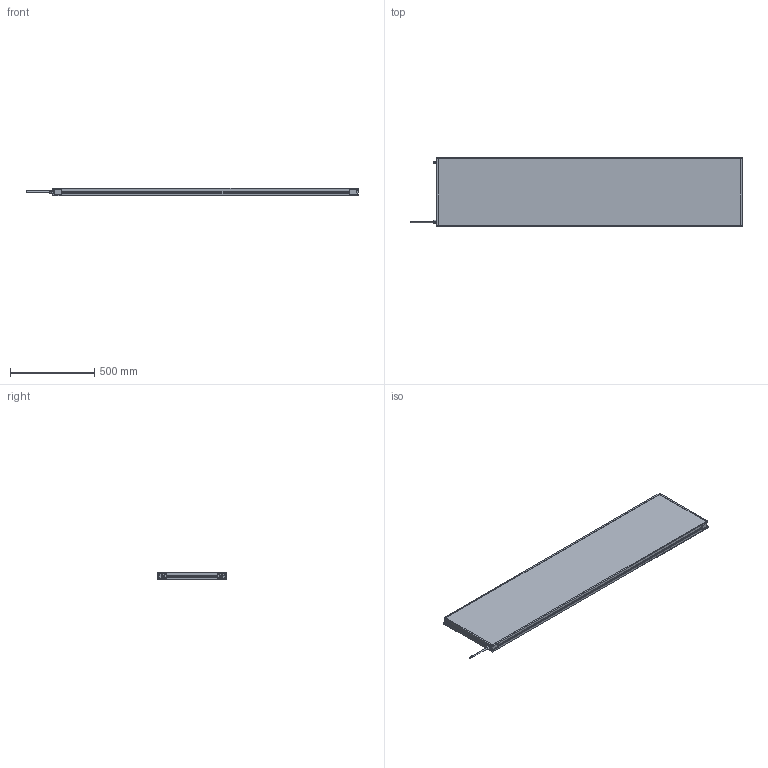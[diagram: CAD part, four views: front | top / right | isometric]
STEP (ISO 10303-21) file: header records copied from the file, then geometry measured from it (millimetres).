
FILE_DESCRIPTION (( 'STEP AP214' ), '1' );
FILE_NAME ('MBACK-xxxx-xxx-M1A2_CLIENT400x1800.STEP', '2022-04-01T11:37:31', ( '' ), ( '' ), 'SwSTEP 2.0', 'SolidWorks 2020', '' );
FILE_SCHEMA (( 'AUTOMOTIVE_DESIGN' ));
Length unit declared in the file: millimetre
Products named in the file (1): MBACK-xxxx-xxx-M1A2_CLIENT400x1800
Bounding box: 1967.4 x 408 x 45.5 mm (x, y, z)
Volume: 30715569.4 mm3; surface area: 1775733.7 mm2
Topology: 1 solids, 1 shells, 470 faces, 1210 edges, 804 vertices
Faces by surface type: plane 265, cylinder 117, bspline 80, cone 8
Entity records: 18046 total; most frequent: CARTESIAN_POINT 6837, ORIENTED_EDGE 2420, DIRECTION 2082, EDGE_CURVE 1210, VERTEX_POINT 804, VECTOR 800, LINE 800, AXIS2_PLACEMENT_3D 641
